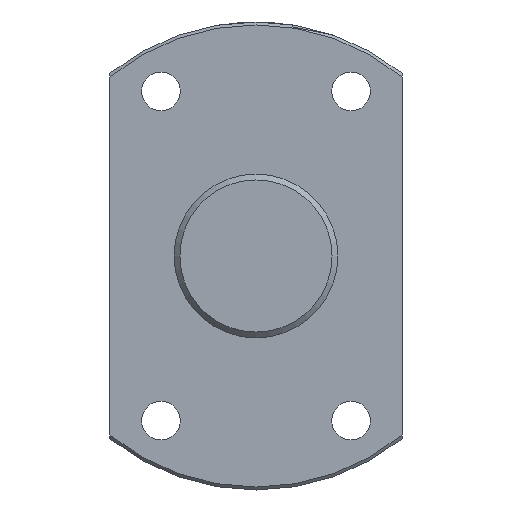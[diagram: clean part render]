
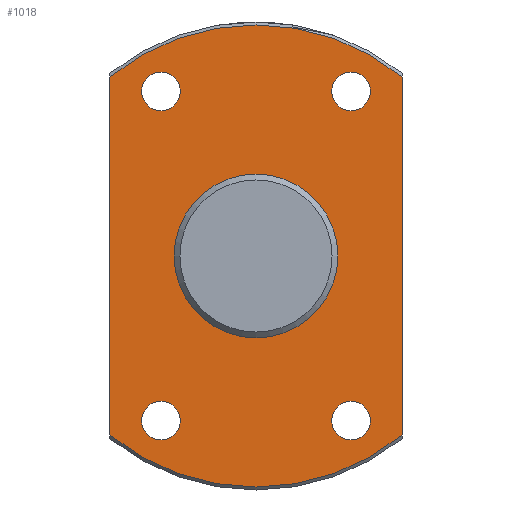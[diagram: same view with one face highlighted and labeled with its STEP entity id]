
A CAD part, left-side view. The second image highlights one B-rep face of the part: STEP entity #1018.
In plain terms, the highlighted planar face has unit normal (-1, 0, 0).
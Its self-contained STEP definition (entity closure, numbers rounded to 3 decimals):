
#315=CARTESIAN_POINT('',(455.42,-25.0,30.582));
#316=VERTEX_POINT('',#315);
#341=CARTESIAN_POINT('',(455.42,25.0,30.582));
#342=VERTEX_POINT('',#341);
#356=CARTESIAN_POINT('',(455.42,0.0,0.0));
#357=DIRECTION('',(1.0,0.0,0.0));
#358=DIRECTION('',(0.0,1.0,0.0));
#359=AXIS2_PLACEMENT_3D('',#356,#357,#358);
#360=CIRCLE('',#359,39.5);
#361=EDGE_CURVE('',#342,#316,#360,.T.);
#478=CARTESIAN_POINT('',(455.42,-25.0,-30.582));
#479=VERTEX_POINT('',#478);
#480=CARTESIAN_POINT('',(455.42,-25.0,30.582));
#481=DIRECTION('',(0.0,0.0,-1.0));
#482=VECTOR('',#481,61.164);
#483=LINE('',#480,#482);
#484=EDGE_CURVE('',#316,#479,#483,.T.);
#560=CARTESIAN_POINT('',(455.42,25.0,-30.582));
#561=VERTEX_POINT('',#560);
#585=CARTESIAN_POINT('',(455.42,0.0,0.0));
#586=DIRECTION('',(1.0,0.0,0.0));
#587=DIRECTION('',(0.0,1.0,0.0));
#588=AXIS2_PLACEMENT_3D('',#585,#586,#587);
#589=CIRCLE('',#588,39.5);
#590=EDGE_CURVE('',#479,#561,#589,.T.);
#671=CARTESIAN_POINT('',(455.42,25.0,-30.582));
#672=DIRECTION('',(0.0,0.0,1.0));
#673=VECTOR('',#672,61.164);
#674=LINE('',#671,#673);
#675=EDGE_CURVE('',#561,#342,#674,.T.);
#900=CARTESIAN_POINT('',(455.42,14.,0.));
#901=VERTEX_POINT('',#900);
#902=CARTESIAN_POINT('',(455.42,0.0,0.0));
#903=DIRECTION('',(1.0,0.0,0.0));
#904=DIRECTION('',(0.0,-1.0,0.0));
#905=AXIS2_PLACEMENT_3D('',#902,#903,#904);
#906=CIRCLE('',#905,14.);
#907=EDGE_CURVE('',#901,#901,#906,.T.);
#920=CARTESIAN_POINT('',(455.42,19.55,-28.146));
#921=VERTEX_POINT('',#920);
#922=CARTESIAN_POINT('',(455.42,16.25,-28.146));
#923=DIRECTION('',(1.0,0.0,0.0));
#924=DIRECTION('',(0.0,1.0,0.0));
#925=AXIS2_PLACEMENT_3D('',#922,#923,#924);
#926=CIRCLE('',#925,3.3);
#927=EDGE_CURVE('',#921,#921,#926,.T.);
#940=CARTESIAN_POINT('',(455.42,-12.95,28.146));
#941=VERTEX_POINT('',#940);
#942=CARTESIAN_POINT('',(455.42,-16.25,28.146));
#943=DIRECTION('',(1.0,0.0,0.0));
#944=DIRECTION('',(0.0,1.0,0.0));
#945=AXIS2_PLACEMENT_3D('',#942,#943,#944);
#946=CIRCLE('',#945,3.3);
#947=EDGE_CURVE('',#941,#941,#946,.T.);
#960=CARTESIAN_POINT('',(455.42,19.55,28.146));
#961=VERTEX_POINT('',#960);
#962=CARTESIAN_POINT('',(455.42,16.25,28.146));
#963=DIRECTION('',(1.0,0.0,0.0));
#964=DIRECTION('',(0.0,1.0,0.0));
#965=AXIS2_PLACEMENT_3D('',#962,#963,#964);
#966=CIRCLE('',#965,3.3);
#967=EDGE_CURVE('',#961,#961,#966,.T.);
#980=CARTESIAN_POINT('',(455.42,-12.95,-28.146));
#981=VERTEX_POINT('',#980);
#982=CARTESIAN_POINT('',(455.42,-16.25,-28.146));
#983=DIRECTION('',(1.0,0.0,0.0));
#984=DIRECTION('',(0.0,1.0,0.0));
#985=AXIS2_PLACEMENT_3D('',#982,#983,#984);
#986=CIRCLE('',#985,3.3);
#987=EDGE_CURVE('',#981,#981,#986,.T.);
#992=CARTESIAN_POINT('',(455.42,0.0,0.0));
#993=DIRECTION('',(-1.0,0.0,0.0));
#994=DIRECTION('',(0.0,0.0,1.0));
#995=AXIS2_PLACEMENT_3D('',#992,#993,#994);
#996=PLANE('',#995);
#997=ORIENTED_EDGE('',*,*,#361,.F.);
#998=ORIENTED_EDGE('',*,*,#675,.F.);
#999=ORIENTED_EDGE('',*,*,#590,.F.);
#1000=ORIENTED_EDGE('',*,*,#484,.F.);
#1001=EDGE_LOOP('',(#997,#998,#999,#1000));
#1002=FACE_OUTER_BOUND('',#1001,.T.);
#1003=ORIENTED_EDGE('',*,*,#907,.T.);
#1004=EDGE_LOOP('',(#1003));
#1005=FACE_BOUND('',#1004,.T.);
#1006=ORIENTED_EDGE('',*,*,#927,.T.);
#1007=EDGE_LOOP('',(#1006));
#1008=FACE_BOUND('',#1007,.T.);
#1009=ORIENTED_EDGE('',*,*,#947,.T.);
#1010=EDGE_LOOP('',(#1009));
#1011=FACE_BOUND('',#1010,.T.);
#1012=ORIENTED_EDGE('',*,*,#967,.T.);
#1013=EDGE_LOOP('',(#1012));
#1014=FACE_BOUND('',#1013,.T.);
#1015=ORIENTED_EDGE('',*,*,#987,.T.);
#1016=EDGE_LOOP('',(#1015));
#1017=FACE_BOUND('',#1016,.T.);
#1018=ADVANCED_FACE('',(#1002,#1005,#1008,#1011,#1014,#1017),#996,.T.);
